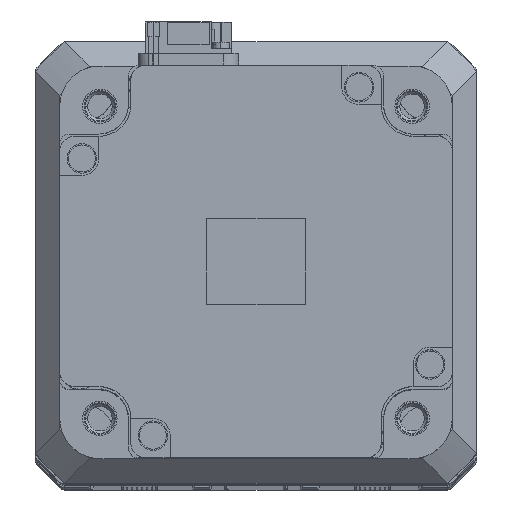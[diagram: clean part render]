
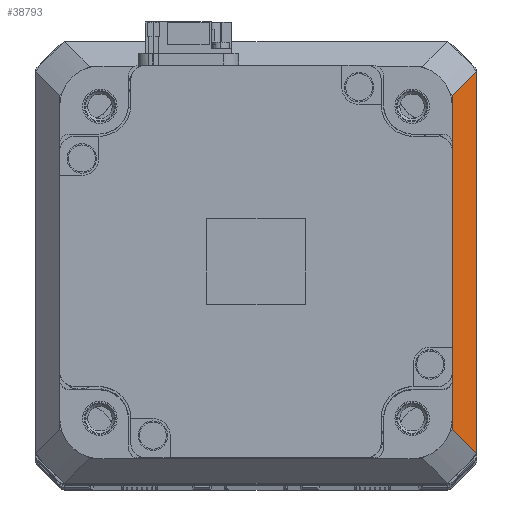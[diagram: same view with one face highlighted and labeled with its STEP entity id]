
A CAD part, top view. The second image highlights one B-rep face of the part: STEP entity #38793.
In plain terms, the highlighted planar face has unit normal (0.707, 0, 0.707).
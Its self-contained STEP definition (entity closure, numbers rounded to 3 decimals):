
#517 = ORIENTED_EDGE ( 'NONE', *, *, #40622, .F. ) ;
#3662 = CARTESIAN_POINT ( 'NONE',  ( 43.333, 37.337, 95.667 ) ) ;
#3782 = LINE ( 'NONE', #26776, #44528 ) ;
#10955 = CARTESIAN_POINT ( 'NONE',  ( 40., 34.004, 99. ) ) ;
#12506 = FACE_OUTER_BOUND ( 'NONE', #41274, .T. ) ;
#14813 = CARTESIAN_POINT ( 'NONE',  ( 45., -39.003, 94. ) ) ;
#15851 = PLANE ( 'NONE',  #39194 ) ;
#17938 = VECTOR ( 'NONE', #43805, 1000. ) ;
#18332 = B_SPLINE_CURVE_WITH_KNOTS ( 'NONE', 3,
 ( #39214, #35269, #3662, #43182 ),
 .UNSPECIFIED., .F., .F.,
 ( 4, 4 ),
 ( 0., 0.009 ),
 .UNSPECIFIED. ) ;
#18648 = CARTESIAN_POINT ( 'NONE',  ( 45., 39.003, 94. ) ) ;
#20031 = DIRECTION ( 'NONE',  ( -0.707, 0., -0.707 ) ) ;
#22787 = CARTESIAN_POINT ( 'NONE',  ( 40., -34.004, 99. ) ) ;
#23955 = EDGE_CURVE ( 'NONE', #46877, #44904, #49396, .T. ) ;
#24182 = CARTESIAN_POINT ( 'NONE',  ( 45., -24., 94. ) ) ;
#24882 = CARTESIAN_POINT ( 'NONE',  ( 40., -34.004, 99. ) ) ;
#26776 = CARTESIAN_POINT ( 'NONE',  ( 40., 0., 99. ) ) ;
#27707 = VERTEX_POINT ( 'NONE', #24882 ) ;
#27712 = ORIENTED_EDGE ( 'NONE', *, *, #23955, .F. ) ;
#29569 = EDGE_CURVE ( 'NONE', #27707, #35957, #3782, .T. ) ;
#29573 = ORIENTED_EDGE ( 'NONE', *, *, #29569, .F. ) ;
#30321 = EDGE_CURVE ( 'NONE', #35957, #46877, #18332, .T. ) ;
#31762 = CARTESIAN_POINT ( 'NONE',  ( 42.5, 0., 96.5 ) ) ;
#34325 = ORIENTED_EDGE ( 'NONE', *, *, #30321, .F. ) ;
#35269 = CARTESIAN_POINT ( 'NONE',  ( 41.666, 35.671, 97.334 ) ) ;
#35957 = VERTEX_POINT ( 'NONE', #10955 ) ;
#38793 = ADVANCED_FACE ( 'NONE', ( #12506 ), #15851, .F. ) ;
#39194 = AXIS2_PLACEMENT_3D ( 'NONE', #31762, #20031, #47565 ) ;
#39214 = CARTESIAN_POINT ( 'NONE',  ( 40., 34.004, 99. ) ) ;
#40622 = EDGE_CURVE ( 'NONE', #44904, #27707, #43598, .T. ) ;
#41274 = EDGE_LOOP ( 'NONE', ( #34325, #29573, #517, #27712 ) ) ;
#42564 = DIRECTION ( 'NONE',  ( 0., 1., 0. ) ) ;
#43182 = CARTESIAN_POINT ( 'NONE',  ( 45., 39.003, 94. ) ) ;
#43598 = B_SPLINE_CURVE_WITH_KNOTS ( 'NONE', 3,
 ( #14813, #50192, #46360, #22787 ),
 .UNSPECIFIED., .F., .F.,
 ( 4, 4 ),
 ( 0., 0.009 ),
 .UNSPECIFIED. ) ;
#43805 = DIRECTION ( 'NONE',  ( 0., -1., 0. ) ) ;
#44528 = VECTOR ( 'NONE', #42564, 1000. ) ;
#44904 = VERTEX_POINT ( 'NONE', #45347 ) ;
#45347 = CARTESIAN_POINT ( 'NONE',  ( 45., -39.003, 94. ) ) ;
#46360 = CARTESIAN_POINT ( 'NONE',  ( 41.666, -35.671, 97.334 ) ) ;
#46877 = VERTEX_POINT ( 'NONE', #18648 ) ;
#47565 = DIRECTION ( 'NONE',  ( 0.707, 0., -0.707 ) ) ;
#49396 = LINE ( 'NONE', #24182, #17938 ) ;
#50192 = CARTESIAN_POINT ( 'NONE',  ( 43.333, -37.337, 95.667 ) ) ;
